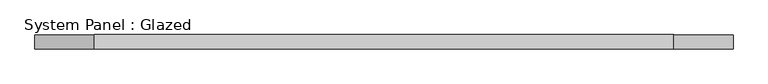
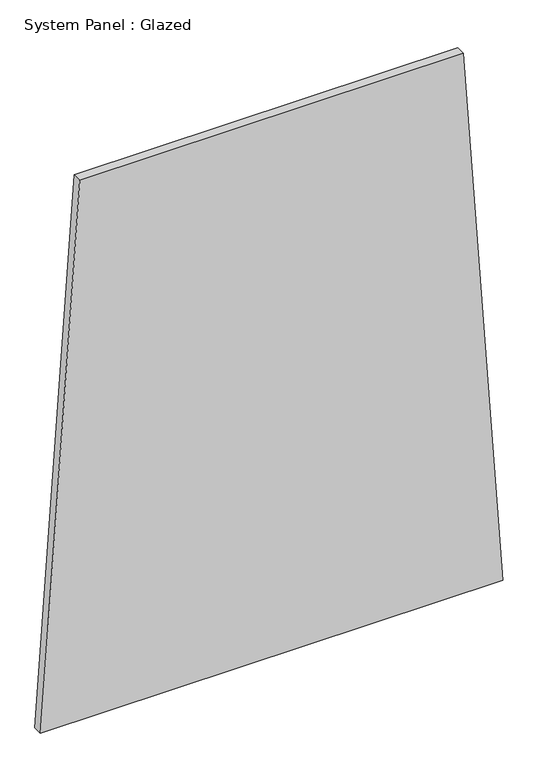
"""IFC4 building model written with IfcOpenShell, lengths in millimetres: plate geometry, System Panel : Glazed."""

from ifc_helpers import new_model, si_unit, frame, origin, place, context, project, spatial, polyline, outline, extrude, source, transform, mapped, element, save


def system_panel_glazed_a0137e14(model_context):
    return source(origin(), model_context, "Body", "SweptSolid", [
        extrude(outline(polyline([(0.0, -616.0109739), (0.0, 616.0109739), (1520.4005268, 511.3293705), (1520.4005268, -511.3293705), (0.0, -616.0109739)])), frame((0.0, -44.45, 0.0), z_axis=(0.0, 1.0, 0.0), x_axis=(0.0, 0.0, 1.0)), (0.0, 0.0, 1.0), 25.4),
    ])


if __name__ == "__main__":
    model = new_model("IFC4")
    model_context = context("Model", 3, world=origin())
    ifc_project = project(units=[si_unit("LENGTHUNIT", "METRE", prefix="MILLI")], contexts=[model_context])
    site = spatial("IfcSite", under=ifc_project)
    building = spatial("IfcBuilding", under=site)
    placement = place(None, origin())
    system_panel_glazed_shape = system_panel_glazed_a0137e14(model_context)
    element("IfcPlate", 1, ObjectType="System Panel : Glazed", at=placement, inside=building, context=model_context, shape_type="MappedRepresentation", body=[
        mapped(system_panel_glazed_shape, transform((0.0, 0.0, 0.0), x_axis=(1.0, 0.0, 0.0), y_axis=(0.0, 1.0, 0.0), z_axis=(0.0, 0.0, 1.0))),
    ])
    save(model, "model.ifc")
